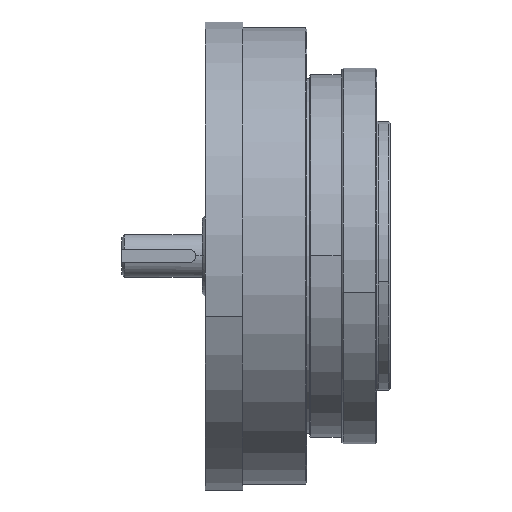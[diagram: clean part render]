
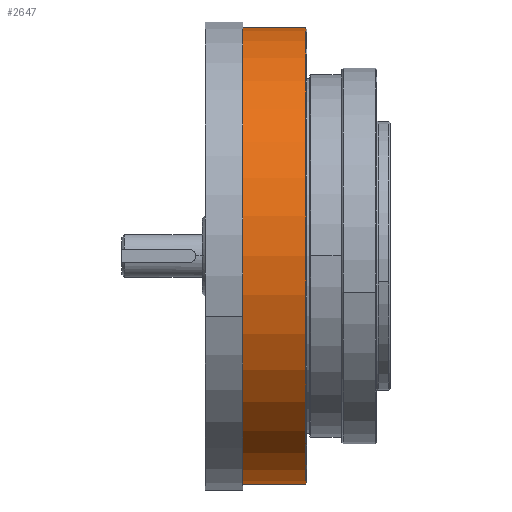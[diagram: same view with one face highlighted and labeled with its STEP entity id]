
A CAD part, top view. The second image highlights one B-rep face of the part: STEP entity #2647.
In plain terms, the highlighted cylindrical face has radius 85 mm (diameter 170 mm), a partial arc.
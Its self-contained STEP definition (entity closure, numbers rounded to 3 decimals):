
#1524 = DIRECTION ( 'NONE',  ( -1., 0., 0. ) ) ;
#2143 = CARTESIAN_POINT ( 'NONE',  ( -27., 0., 0. ) ) ;
#2219 = DIRECTION ( 'NONE',  ( 0., 1., 0. ) ) ;
#2647 = ADVANCED_FACE ( 'NONE', ( #20273 ), #20192, .T. ) ;
#2972 = DIRECTION ( 'NONE',  ( -1., 0., 0. ) ) ;
#3875 = AXIS2_PLACEMENT_3D ( 'NONE', #2143, #2972, #2219 ) ;
#3957 = ORIENTED_EDGE ( 'NONE', *, *, #11828, .F. ) ;
#4949 = VERTEX_POINT ( 'NONE', #11322 ) ;
#5369 = VERTEX_POINT ( 'NONE', #19279 ) ;
#5387 = VECTOR ( 'NONE', #1524, 1000. ) ;
#6109 = EDGE_CURVE ( 'NONE', #5369, #4949, #10778, .T. ) ;
#7574 = CIRCLE ( 'NONE', #3875, 85. ) ;
#8051 = VERTEX_POINT ( 'NONE', #12558 ) ;
#8113 = VERTEX_POINT ( 'NONE', #14328 ) ;
#9048 = LINE ( 'NONE', #15358, #5387 ) ;
#9433 = ORIENTED_EDGE ( 'NONE', *, *, #6109, .T. ) ;
#9571 = CARTESIAN_POINT ( 'NONE',  ( -55., 0., 0. ) ) ;
#9729 = AXIS2_PLACEMENT_3D ( 'NONE', #9571, #20253, #20406 ) ;
#9736 = ORIENTED_EDGE ( 'NONE', *, *, #19267, .T. ) ;
#10778 = CIRCLE ( 'NONE', #9729, 85. ) ;
#11322 = CARTESIAN_POINT ( 'NONE',  ( -55., -85., 0. ) ) ;
#11828 = EDGE_CURVE ( 'NONE', #8113, #4949, #9048, .T. ) ;
#12558 = CARTESIAN_POINT ( 'NONE',  ( -27., 85., 0. ) ) ;
#12627 = ORIENTED_EDGE ( 'NONE', *, *, #16690, .T. ) ;
#14328 = CARTESIAN_POINT ( 'NONE',  ( -27., -85., 0. ) ) ;
#14699 = EDGE_LOOP ( 'NONE', ( #3957, #12627, #9736, #9433 ) ) ;
#14967 = AXIS2_PLACEMENT_3D ( 'NONE', #22517, #22067, #22018 ) ;
#15358 = CARTESIAN_POINT ( 'NONE',  ( -111.814, -85., 0. ) ) ;
#16134 = LINE ( 'NONE', #20271, #20200 ) ;
#16690 = EDGE_CURVE ( 'NONE', #8113, #8051, #7574, .T. ) ;
#19267 = EDGE_CURVE ( 'NONE', #8051, #5369, #16134, .T. ) ;
#19279 = CARTESIAN_POINT ( 'NONE',  ( -55., 85., 0. ) ) ;
#20192 = CYLINDRICAL_SURFACE ( 'NONE', #14967, 85. ) ;
#20200 = VECTOR ( 'NONE', #21489, 1000. ) ;
#20253 = DIRECTION ( 'NONE',  ( 1., 0., 0. ) ) ;
#20271 = CARTESIAN_POINT ( 'NONE',  ( -111.814, 85., 0. ) ) ;
#20273 = FACE_OUTER_BOUND ( 'NONE', #14699, .T. ) ;
#20406 = DIRECTION ( 'NONE',  ( 0., -1., 0. ) ) ;
#21489 = DIRECTION ( 'NONE',  ( -1., 0., 0. ) ) ;
#22018 = DIRECTION ( 'NONE',  ( 0., 1., 0. ) ) ;
#22067 = DIRECTION ( 'NONE',  ( -1., 0., 0. ) ) ;
#22517 = CARTESIAN_POINT ( 'NONE',  ( -111.814, 0., 0. ) ) ;
